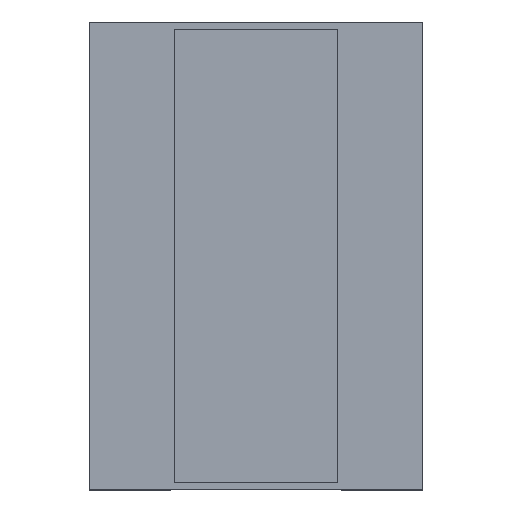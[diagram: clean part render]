
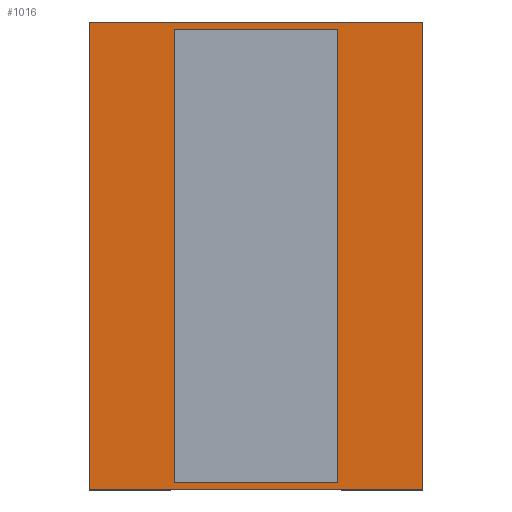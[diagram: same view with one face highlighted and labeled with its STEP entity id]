
A CAD part, top view. The second image highlights one B-rep face of the part: STEP entity #1016.
In plain terms, the highlighted planar face has unit normal (0, 0, 1).
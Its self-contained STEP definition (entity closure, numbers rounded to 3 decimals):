
#32 = PLANE('',#33);
#33 = AXIS2_PLACEMENT_3D('',#34,#35,#36);
#34 = CARTESIAN_POINT('',(6.05,16.55,-2.5));
#35 = DIRECTION('',(0.,1.,0.));
#36 = DIRECTION('',(1.,0.,0.));
#141 = VERTEX_POINT('',#142);
#142 = CARTESIAN_POINT('',(-11.8,16.55,0.));
#156 = PLANE('',#157);
#157 = AXIS2_PLACEMENT_3D('',#158,#159,#160);
#158 = CARTESIAN_POINT('',(-11.8,16.05,-2.5));
#159 = DIRECTION('',(-1.,0.,0.));
#160 = DIRECTION('',(0.,1.,0.));
#168 = EDGE_CURVE('',#141,#169,#171,.T.);
#169 = VERTEX_POINT('',#170);
#170 = CARTESIAN_POINT('',(11.8,16.55,0.));
#171 = SURFACE_CURVE('',#172,(#176,#183),.PCURVE_S1.);
#172 = LINE('',#173,#174);
#173 = CARTESIAN_POINT('',(-11.8,16.55,0.));
#174 = VECTOR('',#175,1.);
#175 = DIRECTION('',(1.,0.,0.));
#176 = PCURVE('',#32,#177);
#177 = DEFINITIONAL_REPRESENTATION('',(#178),#182);
#178 = LINE('',#179,#180);
#179 = CARTESIAN_POINT('',(-17.85,-2.5));
#180 = VECTOR('',#181,1.);
#181 = DIRECTION('',(1.,0.));
#182 = ( GEOMETRIC_REPRESENTATION_CONTEXT(2) 
PARAMETRIC_REPRESENTATION_CONTEXT() REPRESENTATION_CONTEXT('2D SPACE',''
  ) );
#183 = PCURVE('',#184,#189);
#184 = PLANE('',#185);
#185 = AXIS2_PLACEMENT_3D('',#186,#187,#188);
#186 = CARTESIAN_POINT('',(0.,0.,0.));
#187 = DIRECTION('',(-0.,-0.,-1.));
#188 = DIRECTION('',(-1.,0.,0.));
#189 = DEFINITIONAL_REPRESENTATION('',(#190),#194);
#190 = LINE('',#191,#192);
#191 = CARTESIAN_POINT('',(11.8,16.55));
#192 = VECTOR('',#193,1.);
#193 = DIRECTION('',(-1.,0.));
#194 = ( GEOMETRIC_REPRESENTATION_CONTEXT(2) 
PARAMETRIC_REPRESENTATION_CONTEXT() REPRESENTATION_CONTEXT('2D SPACE',''
  ) );
#212 = PLANE('',#213);
#213 = AXIS2_PLACEMENT_3D('',#214,#215,#216);
#214 = CARTESIAN_POINT('',(11.8,16.55,-2.5));
#215 = DIRECTION('',(1.,0.,-0.));
#216 = DIRECTION('',(0.,-1.,0.));
#330 = EDGE_CURVE('',#169,#331,#333,.T.);
#331 = VERTEX_POINT('',#332);
#332 = CARTESIAN_POINT('',(11.8,-16.55,0.));
#333 = SURFACE_CURVE('',#334,(#338,#345),.PCURVE_S1.);
#334 = LINE('',#335,#336);
#335 = CARTESIAN_POINT('',(11.8,16.55,0.));
#336 = VECTOR('',#337,1.);
#337 = DIRECTION('',(0.,-1.,0.));
#338 = PCURVE('',#212,#339);
#339 = DEFINITIONAL_REPRESENTATION('',(#340),#344);
#340 = LINE('',#341,#342);
#341 = CARTESIAN_POINT('',(0.,-2.5));
#342 = VECTOR('',#343,1.);
#343 = DIRECTION('',(1.,0.));
#344 = ( GEOMETRIC_REPRESENTATION_CONTEXT(2) 
PARAMETRIC_REPRESENTATION_CONTEXT() REPRESENTATION_CONTEXT('2D SPACE',''
  ) );
#345 = PCURVE('',#184,#346);
#346 = DEFINITIONAL_REPRESENTATION('',(#347),#351);
#347 = LINE('',#348,#349);
#348 = CARTESIAN_POINT('',(-11.8,16.55));
#349 = VECTOR('',#350,1.);
#350 = DIRECTION('',(0.,-1.));
#351 = ( GEOMETRIC_REPRESENTATION_CONTEXT(2) 
PARAMETRIC_REPRESENTATION_CONTEXT() REPRESENTATION_CONTEXT('2D SPACE',''
  ) );
#369 = PLANE('',#370);
#370 = AXIS2_PLACEMENT_3D('',#371,#372,#373);
#371 = CARTESIAN_POINT('',(11.8,-16.55,-2.5));
#372 = DIRECTION('',(0.,-1.,0.));
#373 = DIRECTION('',(-1.,0.,0.));
#786 = PLANE('',#787);
#787 = AXIS2_PLACEMENT_3D('',#788,#789,#790);
#788 = CARTESIAN_POINT('',(-5.8,16.05,-1.));
#789 = DIRECTION('',(0.,1.,0.));
#790 = DIRECTION('',(1.,0.,0.));
#812 = PLANE('',#813);
#813 = AXIS2_PLACEMENT_3D('',#814,#815,#816);
#814 = CARTESIAN_POINT('',(5.8,16.05,-1.));
#815 = DIRECTION('',(1.,0.,-0.));
#816 = DIRECTION('',(0.,-1.,0.));
#838 = PLANE('',#839);
#839 = AXIS2_PLACEMENT_3D('',#840,#841,#842);
#840 = CARTESIAN_POINT('',(5.8,-16.05,-1.));
#841 = DIRECTION('',(0.,-1.,0.));
#842 = DIRECTION('',(-1.,0.,0.));
#862 = PLANE('',#863);
#863 = AXIS2_PLACEMENT_3D('',#864,#865,#866);
#864 = CARTESIAN_POINT('',(-5.8,-16.05,-1.));
#865 = DIRECTION('',(-1.,0.,0.));
#866 = DIRECTION('',(0.,1.,0.));
#952 = VERTEX_POINT('',#953);
#953 = CARTESIAN_POINT('',(-11.8,-16.55,0.));
#974 = EDGE_CURVE('',#952,#141,#975,.T.);
#975 = SURFACE_CURVE('',#976,(#980,#987),.PCURVE_S1.);
#976 = LINE('',#977,#978);
#977 = CARTESIAN_POINT('',(-11.8,-16.55,0.));
#978 = VECTOR('',#979,1.);
#979 = DIRECTION('',(0.,1.,0.));
#980 = PCURVE('',#156,#981);
#981 = DEFINITIONAL_REPRESENTATION('',(#982),#986);
#982 = LINE('',#983,#984);
#983 = CARTESIAN_POINT('',(-32.6,-2.5));
#984 = VECTOR('',#985,1.);
#985 = DIRECTION('',(1.,0.));
#986 = ( GEOMETRIC_REPRESENTATION_CONTEXT(2) 
PARAMETRIC_REPRESENTATION_CONTEXT() REPRESENTATION_CONTEXT('2D SPACE',''
  ) );
#987 = PCURVE('',#184,#988);
#988 = DEFINITIONAL_REPRESENTATION('',(#989),#993);
#989 = LINE('',#990,#991);
#990 = CARTESIAN_POINT('',(11.8,-16.55));
#991 = VECTOR('',#992,1.);
#992 = DIRECTION('',(0.,1.));
#993 = ( GEOMETRIC_REPRESENTATION_CONTEXT(2) 
PARAMETRIC_REPRESENTATION_CONTEXT() REPRESENTATION_CONTEXT('2D SPACE',''
  ) );
#1016 = ADVANCED_FACE('',(#1017,#1043),#184,.F.);
#1017 = FACE_BOUND('',#1018,.F.);
#1018 = EDGE_LOOP('',(#1019,#1020,#1021,#1042));
#1019 = ORIENTED_EDGE('',*,*,#168,.T.);
#1020 = ORIENTED_EDGE('',*,*,#330,.T.);
#1021 = ORIENTED_EDGE('',*,*,#1022,.T.);
#1022 = EDGE_CURVE('',#331,#952,#1023,.T.);
#1023 = SURFACE_CURVE('',#1024,(#1028,#1035),.PCURVE_S1.);
#1024 = LINE('',#1025,#1026);
#1025 = CARTESIAN_POINT('',(11.8,-16.55,0.));
#1026 = VECTOR('',#1027,1.);
#1027 = DIRECTION('',(-1.,0.,0.));
#1028 = PCURVE('',#184,#1029);
#1029 = DEFINITIONAL_REPRESENTATION('',(#1030),#1034);
#1030 = LINE('',#1031,#1032);
#1031 = CARTESIAN_POINT('',(-11.8,-16.55));
#1032 = VECTOR('',#1033,1.);
#1033 = DIRECTION('',(1.,0.));
#1034 = ( GEOMETRIC_REPRESENTATION_CONTEXT(2) 
PARAMETRIC_REPRESENTATION_CONTEXT() REPRESENTATION_CONTEXT('2D SPACE',''
  ) );
#1035 = PCURVE('',#369,#1036);
#1036 = DEFINITIONAL_REPRESENTATION('',(#1037),#1041);
#1037 = LINE('',#1038,#1039);
#1038 = CARTESIAN_POINT('',(0.,-2.5));
#1039 = VECTOR('',#1040,1.);
#1040 = DIRECTION('',(1.,0.));
#1041 = ( GEOMETRIC_REPRESENTATION_CONTEXT(2) 
PARAMETRIC_REPRESENTATION_CONTEXT() REPRESENTATION_CONTEXT('2D SPACE',''
  ) );
#1042 = ORIENTED_EDGE('',*,*,#974,.T.);
#1043 = FACE_BOUND('',#1044,.F.);
#1044 = EDGE_LOOP('',(#1045,#1070,#1093,#1116));
#1045 = ORIENTED_EDGE('',*,*,#1046,.F.);
#1046 = EDGE_CURVE('',#1047,#1049,#1051,.T.);
#1047 = VERTEX_POINT('',#1048);
#1048 = CARTESIAN_POINT('',(-5.8,16.05,0.));
#1049 = VERTEX_POINT('',#1050);
#1050 = CARTESIAN_POINT('',(5.8,16.05,0.));
#1051 = SURFACE_CURVE('',#1052,(#1056,#1063),.PCURVE_S1.);
#1052 = LINE('',#1053,#1054);
#1053 = CARTESIAN_POINT('',(-5.8,16.05,0.));
#1054 = VECTOR('',#1055,1.);
#1055 = DIRECTION('',(1.,0.,0.));
#1056 = PCURVE('',#184,#1057);
#1057 = DEFINITIONAL_REPRESENTATION('',(#1058),#1062);
#1058 = LINE('',#1059,#1060);
#1059 = CARTESIAN_POINT('',(5.8,16.05));
#1060 = VECTOR('',#1061,1.);
#1061 = DIRECTION('',(-1.,0.));
#1062 = ( GEOMETRIC_REPRESENTATION_CONTEXT(2) 
PARAMETRIC_REPRESENTATION_CONTEXT() REPRESENTATION_CONTEXT('2D SPACE',''
  ) );
#1063 = PCURVE('',#786,#1064);
#1064 = DEFINITIONAL_REPRESENTATION('',(#1065),#1069);
#1065 = LINE('',#1066,#1067);
#1066 = CARTESIAN_POINT('',(0.,-1.));
#1067 = VECTOR('',#1068,1.);
#1068 = DIRECTION('',(1.,0.));
#1069 = ( GEOMETRIC_REPRESENTATION_CONTEXT(2) 
PARAMETRIC_REPRESENTATION_CONTEXT() REPRESENTATION_CONTEXT('2D SPACE',''
  ) );
#1070 = ORIENTED_EDGE('',*,*,#1071,.F.);
#1071 = EDGE_CURVE('',#1072,#1047,#1074,.T.);
#1072 = VERTEX_POINT('',#1073);
#1073 = CARTESIAN_POINT('',(-5.8,-16.05,0.));
#1074 = SURFACE_CURVE('',#1075,(#1079,#1086),.PCURVE_S1.);
#1075 = LINE('',#1076,#1077);
#1076 = CARTESIAN_POINT('',(-5.8,-16.05,0.));
#1077 = VECTOR('',#1078,1.);
#1078 = DIRECTION('',(0.,1.,0.));
#1079 = PCURVE('',#184,#1080);
#1080 = DEFINITIONAL_REPRESENTATION('',(#1081),#1085);
#1081 = LINE('',#1082,#1083);
#1082 = CARTESIAN_POINT('',(5.8,-16.05));
#1083 = VECTOR('',#1084,1.);
#1084 = DIRECTION('',(0.,1.));
#1085 = ( GEOMETRIC_REPRESENTATION_CONTEXT(2) 
PARAMETRIC_REPRESENTATION_CONTEXT() REPRESENTATION_CONTEXT('2D SPACE',''
  ) );
#1086 = PCURVE('',#862,#1087);
#1087 = DEFINITIONAL_REPRESENTATION('',(#1088),#1092);
#1088 = LINE('',#1089,#1090);
#1089 = CARTESIAN_POINT('',(0.,-1.));
#1090 = VECTOR('',#1091,1.);
#1091 = DIRECTION('',(1.,0.));
#1092 = ( GEOMETRIC_REPRESENTATION_CONTEXT(2) 
PARAMETRIC_REPRESENTATION_CONTEXT() REPRESENTATION_CONTEXT('2D SPACE',''
  ) );
#1093 = ORIENTED_EDGE('',*,*,#1094,.F.);
#1094 = EDGE_CURVE('',#1095,#1072,#1097,.T.);
#1095 = VERTEX_POINT('',#1096);
#1096 = CARTESIAN_POINT('',(5.8,-16.05,0.));
#1097 = SURFACE_CURVE('',#1098,(#1102,#1109),.PCURVE_S1.);
#1098 = LINE('',#1099,#1100);
#1099 = CARTESIAN_POINT('',(5.8,-16.05,0.));
#1100 = VECTOR('',#1101,1.);
#1101 = DIRECTION('',(-1.,0.,0.));
#1102 = PCURVE('',#184,#1103);
#1103 = DEFINITIONAL_REPRESENTATION('',(#1104),#1108);
#1104 = LINE('',#1105,#1106);
#1105 = CARTESIAN_POINT('',(-5.8,-16.05));
#1106 = VECTOR('',#1107,1.);
#1107 = DIRECTION('',(1.,0.));
#1108 = ( GEOMETRIC_REPRESENTATION_CONTEXT(2) 
PARAMETRIC_REPRESENTATION_CONTEXT() REPRESENTATION_CONTEXT('2D SPACE',''
  ) );
#1109 = PCURVE('',#838,#1110);
#1110 = DEFINITIONAL_REPRESENTATION('',(#1111),#1115);
#1111 = LINE('',#1112,#1113);
#1112 = CARTESIAN_POINT('',(0.,-1.));
#1113 = VECTOR('',#1114,1.);
#1114 = DIRECTION('',(1.,0.));
#1115 = ( GEOMETRIC_REPRESENTATION_CONTEXT(2) 
PARAMETRIC_REPRESENTATION_CONTEXT() REPRESENTATION_CONTEXT('2D SPACE',''
  ) );
#1116 = ORIENTED_EDGE('',*,*,#1117,.F.);
#1117 = EDGE_CURVE('',#1049,#1095,#1118,.T.);
#1118 = SURFACE_CURVE('',#1119,(#1123,#1130),.PCURVE_S1.);
#1119 = LINE('',#1120,#1121);
#1120 = CARTESIAN_POINT('',(5.8,16.05,0.));
#1121 = VECTOR('',#1122,1.);
#1122 = DIRECTION('',(0.,-1.,0.));
#1123 = PCURVE('',#184,#1124);
#1124 = DEFINITIONAL_REPRESENTATION('',(#1125),#1129);
#1125 = LINE('',#1126,#1127);
#1126 = CARTESIAN_POINT('',(-5.8,16.05));
#1127 = VECTOR('',#1128,1.);
#1128 = DIRECTION('',(0.,-1.));
#1129 = ( GEOMETRIC_REPRESENTATION_CONTEXT(2) 
PARAMETRIC_REPRESENTATION_CONTEXT() REPRESENTATION_CONTEXT('2D SPACE',''
  ) );
#1130 = PCURVE('',#812,#1131);
#1131 = DEFINITIONAL_REPRESENTATION('',(#1132),#1136);
#1132 = LINE('',#1133,#1134);
#1133 = CARTESIAN_POINT('',(0.,-1.));
#1134 = VECTOR('',#1135,1.);
#1135 = DIRECTION('',(1.,0.));
#1136 = ( GEOMETRIC_REPRESENTATION_CONTEXT(2) 
PARAMETRIC_REPRESENTATION_CONTEXT() REPRESENTATION_CONTEXT('2D SPACE',''
  ) );
